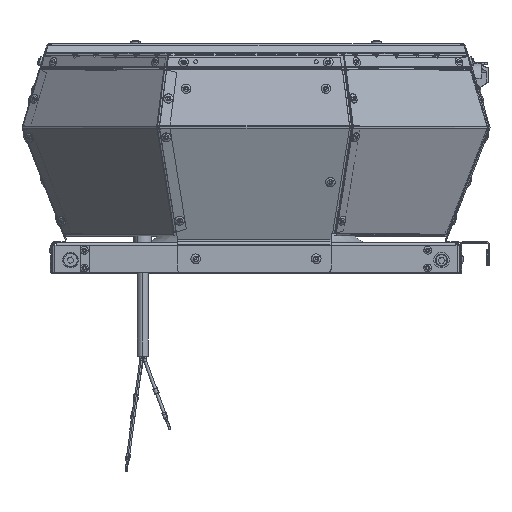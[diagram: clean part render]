
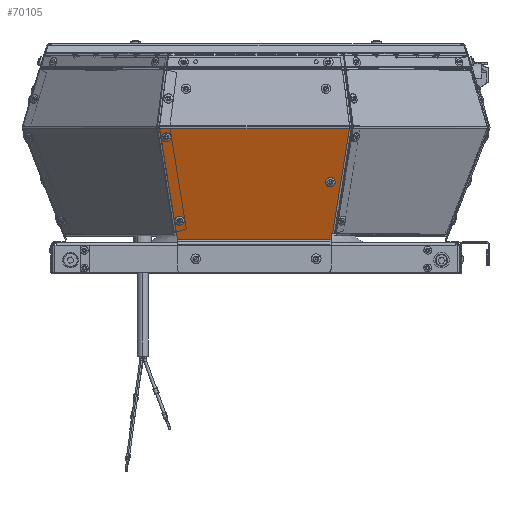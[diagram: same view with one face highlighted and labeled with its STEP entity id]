
A CAD part, top view. The second image highlights one B-rep face of the part: STEP entity #70105.
In plain terms, the highlighted planar face has unit normal (0, -0.362, 0.932).
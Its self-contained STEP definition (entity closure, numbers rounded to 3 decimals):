
#36 = CARTESIAN_POINT ( 'NONE',  ( 77.58, 96.532, 193.955 ) ) ;
#37 = DIRECTION ( 'NONE',  ( 0., -0.932, -0.362 ) ) ;
#366 = CARTESIAN_POINT ( 'NONE',  ( 80., 4.499, 158.165 ) ) ;
#367 = DIRECTION ( 'NONE',  ( -1., 0., 0. ) ) ;
#373 = CARTESIAN_POINT ( 'NONE',  ( 61.664, 52.209, 176.718 ) ) ;
#374 = DIRECTION ( 'NONE',  ( 0., -0.362, 0.932 ) ) ;
#375 = DIRECTION ( 'NONE',  ( 0., -0.932, -0.362 ) ) ;
#392 = CARTESIAN_POINT ( 'NONE',  ( -65.164, 4.499, 158.165 ) ) ;
#394 = CARTESIAN_POINT ( 'NONE',  ( -63.383, 20.276, 164.301 ) ) ;
#395 = DIRECTION ( 'NONE',  ( 0., 0.362, -0.932 ) ) ;
#396 = DIRECTION ( 'NONE',  ( 0., 0.932, 0.362 ) ) ;
#403 = DIRECTION ( 'NONE',  ( -0.148, 0.922, 0.358 ) ) ;
#415 = CARTESIAN_POINT ( 'NONE',  ( -63.383, 20.276, 164.301 ) ) ;
#416 = DIRECTION ( 'NONE',  ( 0., 0.362, -0.932 ) ) ;
#417 = DIRECTION ( 'NONE',  ( 0., 0.932, 0.362 ) ) ;
#427 = CARTESIAN_POINT ( 'NONE',  ( 77.58, 96.532, 193.955 ) ) ;
#428 = DIRECTION ( 'NONE',  ( 0.965, -0.245, -0.095 ) ) ;
#482 = DIRECTION ( 'NONE',  ( -1., 0., 0. ) ) ;
#487 = CARTESIAN_POINT ( 'NONE',  ( 62.259, 9.286, 160.026 ) ) ;
#491 = CARTESIAN_POINT ( 'NONE',  ( 61.664, 52.209, 176.718 ) ) ;
#492 = DIRECTION ( 'NONE',  ( 0., -0.362, 0.932 ) ) ;
#493 = DIRECTION ( 'NONE',  ( 0., -0.932, -0.362 ) ) ;
#515 = CARTESIAN_POINT ( 'NONE',  ( -74.512, 89.402, 191.182 ) ) ;
#516 = DIRECTION ( 'NONE',  ( 0., 0.362, -0.932 ) ) ;
#517 = DIRECTION ( 'NONE',  ( 0., 0.932, 0.362 ) ) ;
#5492 = CARTESIAN_POINT ( 'NONE',  ( -74.512, 89.402, 191.182 ) ) ;
#5494 = DIRECTION ( 'NONE',  ( 0., 0.362, -0.932 ) ) ;
#5495 = DIRECTION ( 'NONE',  ( 0., 0.932, 0.362 ) ) ;
#5807 = CARTESIAN_POINT ( 'NONE',  ( 62.817, 4.827, 158.293 ) ) ;
#5817 = DIRECTION ( 'NONE',  ( 0.148, 0.922, 0.358 ) ) ;
#5923 = CARTESIAN_POINT ( 'NONE',  ( 80., 96.601, 193.982 ) ) ;
#5925 = DIRECTION ( 'NONE',  ( -1., 0., 0. ) ) ;
#15647 = AXIS2_PLACEMENT_3D ( 'NONE', #373, #374, #375 ) ;
#15650 = AXIS2_PLACEMENT_3D ( 'NONE', #394, #395, #396 ) ;
#15653 = AXIS2_PLACEMENT_3D ( 'NONE', #415, #416, #417 ) ;
#15669 = AXIS2_PLACEMENT_3D ( 'NONE', #491, #492, #493 ) ;
#15673 = AXIS2_PLACEMENT_3D ( 'NONE', #515, #516, #517 ) ;
#15676 = AXIS2_PLACEMENT_3D ( 'NONE', #5492, #5494, #5495 ) ;
#22909 = VERTEX_POINT ( 'NONE', #89119 ) ;
#22912 = VERTEX_POINT ( 'NONE', #89123 ) ;
#22915 = VERTEX_POINT ( 'NONE', #89128 ) ;
#22928 = VERTEX_POINT ( 'NONE', #89152 ) ;
#22931 = VERTEX_POINT ( 'NONE', #73951 ) ;
#22955 = VERTEX_POINT ( 'NONE', #74018 ) ;
#22960 = VERTEX_POINT ( 'NONE', #74031 ) ;
#27526 = DIRECTION ( 'NONE',  ( 0., 0.362, -0.932 ) ) ;
#27527 = PLANE ( 'NONE',  #49333 ) ;
#27529 = CARTESIAN_POINT ( 'NONE',  ( 80., 97.367, 194.279 ) ) ;
#27531 = DIRECTION ( 'NONE',  ( 0., 0.932, 0.362 ) ) ;
#43777 = FACE_BOUND ( 'NONE', #95428, .T. ) ;
#43778 = FACE_OUTER_BOUND ( 'NONE', #92614, .T. ) ;
#43780 = FACE_BOUND ( 'NONE', #95923, .T. ) ;
#43781 = FACE_BOUND ( 'NONE', #95432, .T. ) ;
#49333 = AXIS2_PLACEMENT_3D ( 'NONE', #27529, #27526, #27531 ) ;
#49363 = CARTESIAN_POINT ( 'NONE',  ( 77.58, 96.532, 193.955 ) ) ;
#49371 = CARTESIAN_POINT ( 'NONE',  ( 62.259, 4.499, 158.165 ) ) ;
#49389 = CARTESIAN_POINT ( 'NONE',  ( -74.512, 91.359, 191.943 ) ) ;
#49410 = CARTESIAN_POINT ( 'NONE',  ( 63.536, 9.286, 160.026 ) ) ;
#49431 = CARTESIAN_POINT ( 'NONE',  ( 61.664, 54.166, 177.48 ) ) ;
#49650 = CARTESIAN_POINT ( 'NONE',  ( 77.58, 96.601, 193.982 ) ) ;
#49667 = CARTESIAN_POINT ( 'NONE',  ( -80., 96.601, 193.982 ) ) ;
#50471 = VERTEX_POINT ( 'NONE', #49363 ) ;
#50478 = VERTEX_POINT ( 'NONE', #49371 ) ;
#50498 = VERTEX_POINT ( 'NONE', #49389 ) ;
#50520 = VERTEX_POINT ( 'NONE', #49410 ) ;
#50540 = VERTEX_POINT ( 'NONE', #49431 ) ;
#50770 = VERTEX_POINT ( 'NONE', #49650 ) ;
#50789 = VERTEX_POINT ( 'NONE', #49667 ) ;
#65205 = EDGE_CURVE ( 'NONE', #22928, #50478, #84108, .T. ) ;
#65311 = EDGE_CURVE ( 'NONE', #50770, #50471, #84285, .T. ) ;
#65438 = EDGE_CURVE ( 'NONE', #50478, #22912, #84485, .T. ) ;
#65440 = EDGE_CURVE ( 'NONE', #50540, #22931, #84487, .T. ) ;
#65447 = EDGE_CURVE ( 'NONE', #22909, #22915, #84498, .T. ) ;
#65452 = EDGE_CURVE ( 'NONE', #22912, #50789, #84505, .T. ) ;
#65458 = EDGE_CURVE ( 'NONE', #22915, #22909, #84517, .T. ) ;
#65461 = EDGE_CURVE ( 'NONE', #50471, #22960, #84522, .T. ) ;
#65484 = EDGE_CURVE ( 'NONE', #50520, #22928, #84553, .T. ) ;
#65485 = EDGE_CURVE ( 'NONE', #22931, #50540, #84556, .T. ) ;
#65495 = EDGE_CURVE ( 'NONE', #22955, #50498, #84573, .T. ) ;
#65506 = EDGE_CURVE ( 'NONE', #50498, #22955, #84590, .T. ) ;
#65566 = EDGE_CURVE ( 'NONE', #50520, #22960, #84660, .T. ) ;
#65588 = EDGE_CURVE ( 'NONE', #50770, #50789, #84708, .T. ) ;
#69843 = ORIENTED_EDGE ( 'NONE', *, *, #65485, .F. ) ;
#69846 = ORIENTED_EDGE ( 'NONE', *, *, #65440, .F. ) ;
#69850 = ORIENTED_EDGE ( 'NONE', *, *, #65506, .T. ) ;
#69853 = ORIENTED_EDGE ( 'NONE', *, *, #65495, .T. ) ;
#69857 = ORIENTED_EDGE ( 'NONE', *, *, #65458, .T. ) ;
#69859 = ORIENTED_EDGE ( 'NONE', *, *, #65447, .T. ) ;
#69863 = ORIENTED_EDGE ( 'NONE', *, *, #65438, .F. ) ;
#69866 = ORIENTED_EDGE ( 'NONE', *, *, #65205, .F. ) ;
#69869 = ORIENTED_EDGE ( 'NONE', *, *, #65484, .F. ) ;
#69872 = ORIENTED_EDGE ( 'NONE', *, *, #65566, .T. ) ;
#69876 = ORIENTED_EDGE ( 'NONE', *, *, #65461, .F. ) ;
#69880 = ORIENTED_EDGE ( 'NONE', *, *, #65311, .F. ) ;
#69883 = ORIENTED_EDGE ( 'NONE', *, *, #65588, .T. ) ;
#69886 = ORIENTED_EDGE ( 'NONE', *, *, #65452, .F. ) ;
#70105 = ADVANCED_FACE ( 'NONE', ( #43780, #43777, #43781, #43778 ), #27527, .F. ) ;
#73951 = CARTESIAN_POINT ( 'NONE',  ( 61.664, 50.251, 175.957 ) ) ;
#74018 = CARTESIAN_POINT ( 'NONE',  ( -74.512, 87.445, 190.421 ) ) ;
#74031 = CARTESIAN_POINT ( 'NONE',  ( 77.589, 96.529, 193.954 ) ) ;
#84108 = LINE ( 'NONE', #95719, #84113 ) ;
#84113 = VECTOR ( 'NONE', #95723, 1000. ) ;
#84285 = LINE ( 'NONE', #36, #84287 ) ;
#84287 = VECTOR ( 'NONE', #37, 1000. ) ;
#84485 = LINE ( 'NONE', #366, #84488 ) ;
#84487 = CIRCLE ( 'NONE', #15647, 2.1 ) ;
#84488 = VECTOR ( 'NONE', #367, 1000. ) ;
#84498 = CIRCLE ( 'NONE', #15650, 2.1 ) ;
#84505 = LINE ( 'NONE', #392, #84510 ) ;
#84510 = VECTOR ( 'NONE', #403, 1000. ) ;
#84517 = CIRCLE ( 'NONE', #15653, 2.1 ) ;
#84522 = LINE ( 'NONE', #427, #84523 ) ;
#84523 = VECTOR ( 'NONE', #428, 1000. ) ;
#84553 = LINE ( 'NONE', #487, #84557 ) ;
#84556 = CIRCLE ( 'NONE', #15669, 2.1 ) ;
#84557 = VECTOR ( 'NONE', #482, 1000. ) ;
#84573 = CIRCLE ( 'NONE', #15673, 2.1 ) ;
#84590 = CIRCLE ( 'NONE', #15676, 2.1 ) ;
#84660 = LINE ( 'NONE', #5807, #84677 ) ;
#84677 = VECTOR ( 'NONE', #5817, 1000. ) ;
#84708 = LINE ( 'NONE', #5923, #84710 ) ;
#84710 = VECTOR ( 'NONE', #5925, 1000. ) ;
#89119 = CARTESIAN_POINT ( 'NONE',  ( -63.383, 18.319, 163.539 ) ) ;
#89123 = CARTESIAN_POINT ( 'NONE',  ( -65.164, 4.499, 158.165 ) ) ;
#89128 = CARTESIAN_POINT ( 'NONE',  ( -63.383, 22.233, 165.062 ) ) ;
#89152 = CARTESIAN_POINT ( 'NONE',  ( 62.259, 9.286, 160.026 ) ) ;
#92614 = EDGE_LOOP ( 'NONE', ( #69863, #69866, #69869, #69872, #69876, #69880, #69883, #69886 ) ) ;
#95428 = EDGE_LOOP ( 'NONE', ( #69850, #69853 ) ) ;
#95432 = EDGE_LOOP ( 'NONE', ( #69857, #69859 ) ) ;
#95719 = CARTESIAN_POINT ( 'NONE',  ( 62.259, -7.491, 153.503 ) ) ;
#95723 = DIRECTION ( 'NONE',  ( 0., -0.932, -0.362 ) ) ;
#95923 = EDGE_LOOP ( 'NONE', ( #69843, #69846 ) ) ;
